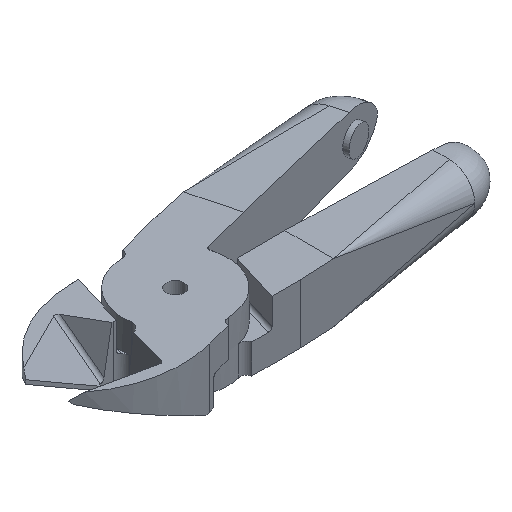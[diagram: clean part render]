
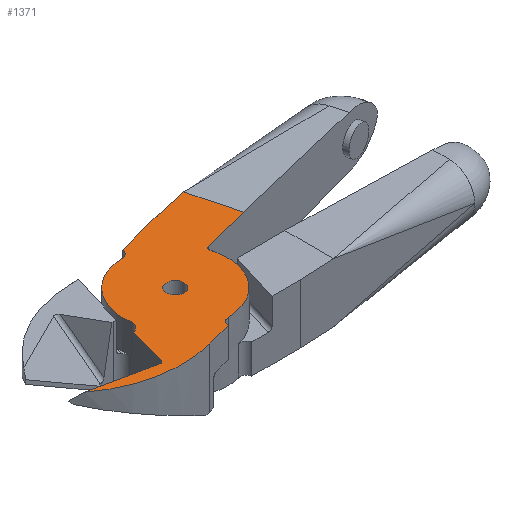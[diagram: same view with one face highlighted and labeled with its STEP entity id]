
A CAD part, isometric view. The second image highlights one B-rep face of the part: STEP entity #1371.
In plain terms, the highlighted planar face has unit normal (0, 0, 1).
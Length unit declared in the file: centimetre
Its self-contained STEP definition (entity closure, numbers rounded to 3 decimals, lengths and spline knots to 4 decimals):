
#14=FACE_BOUND('',#177,.T.);
#33=ELLIPSE('',#1463,0.1269,0.1);
#104=FACE_OUTER_BOUND('',#176,.T.);
#176=EDGE_LOOP('',(#958,#959,#960,#961,#962,#963,#964,#965,#966,#967,#968,
#969,#970,#971,#972,#973,#974));
#177=EDGE_LOOP('',(#975));
#251=LINE('',#1990,#373);
#255=LINE('',#2001,#377);
#260=LINE('',#2011,#382);
#263=LINE('',#2016,#385);
#272=LINE('',#2059,#394);
#276=LINE('',#2066,#398);
#277=LINE('',#2069,#399);
#280=LINE('',#2192,#402);
#281=LINE('',#2193,#403);
#373=VECTOR('',#1608,0.7606);
#377=VECTOR('',#1618,0.07);
#382=VECTOR('',#1625,1.0011);
#385=VECTOR('',#1630,1.4);
#394=VECTOR('',#1661,1.13);
#398=VECTOR('',#1667,1.8244);
#399=VECTOR('',#1672,0.0403);
#402=VECTOR('',#1687,1.42);
#403=VECTOR('',#1688,1.4031);
#484=CIRCLE('',#1438,0.2);
#485=CIRCLE('',#1440,0.25);
#487=CIRCLE('',#1444,0.2);
#490=CIRCLE('',#1456,3.5);
#491=CIRCLE('',#1465,1.5);
#492=CIRCLE('',#1466,1.5);
#493=CIRCLE('',#1467,0.08);
#494=CIRCLE('',#1468,0.255);
#538=VERTEX_POINT('',#1973);
#539=VERTEX_POINT('',#1974);
#540=VERTEX_POINT('',#1979);
#541=VERTEX_POINT('',#1980);
#543=VERTEX_POINT('',#1987);
#544=VERTEX_POINT('',#1989);
#546=VERTEX_POINT('',#1995);
#547=VERTEX_POINT('',#1999);
#548=VERTEX_POINT('',#2000);
#551=VERTEX_POINT('',#2008);
#552=VERTEX_POINT('',#2010);
#561=VERTEX_POINT('',#2051);
#563=VERTEX_POINT('',#2056);
#564=VERTEX_POINT('',#2058);
#566=VERTEX_POINT('',#2063);
#571=VERTEX_POINT('',#2189);
#572=VERTEX_POINT('',#2191);
#573=VERTEX_POINT('',#2194);
#672=EDGE_CURVE('',#538,#539,#484,.T.);
#675=EDGE_CURVE('',#540,#541,#485,.T.);
#680=EDGE_CURVE('',#544,#543,#251,.T.);
#683=EDGE_CURVE('',#543,#546,#487,.T.);
#685=EDGE_CURVE('',#547,#548,#255,.T.);
#690=EDGE_CURVE('',#552,#551,#260,.T.);
#693=EDGE_CURVE('',#551,#538,#263,.T.);
#706=EDGE_CURVE('',#561,#544,#490,.T.);
#709=EDGE_CURVE('',#563,#564,#272,.T.);
#713=EDGE_CURVE('',#566,#561,#276,.T.);
#715=EDGE_CURVE('',#564,#541,#277,.T.);
#722=EDGE_CURVE('',#563,#566,#33,.T.);
#723=EDGE_CURVE('',#539,#540,#491,.T.);
#724=EDGE_CURVE('',#546,#547,#492,.T.);
#725=EDGE_CURVE('',#548,#571,#493,.T.);
#726=EDGE_CURVE('',#571,#572,#280,.T.);
#727=EDGE_CURVE('',#572,#552,#281,.T.);
#728=EDGE_CURVE('',#573,#573,#494,.T.);
#958=ORIENTED_EDGE('',*,*,#672,.T.);
#959=ORIENTED_EDGE('',*,*,#723,.T.);
#960=ORIENTED_EDGE('',*,*,#675,.T.);
#961=ORIENTED_EDGE('',*,*,#715,.F.);
#962=ORIENTED_EDGE('',*,*,#709,.F.);
#963=ORIENTED_EDGE('',*,*,#722,.T.);
#964=ORIENTED_EDGE('',*,*,#713,.T.);
#965=ORIENTED_EDGE('',*,*,#706,.T.);
#966=ORIENTED_EDGE('',*,*,#680,.T.);
#967=ORIENTED_EDGE('',*,*,#683,.T.);
#968=ORIENTED_EDGE('',*,*,#724,.T.);
#969=ORIENTED_EDGE('',*,*,#685,.T.);
#970=ORIENTED_EDGE('',*,*,#725,.T.);
#971=ORIENTED_EDGE('',*,*,#726,.T.);
#972=ORIENTED_EDGE('',*,*,#727,.T.);
#973=ORIENTED_EDGE('',*,*,#690,.T.);
#974=ORIENTED_EDGE('',*,*,#693,.T.);
#975=ORIENTED_EDGE('',*,*,#728,.F.);
#1245=PLANE('',#1464);
#1371=ADVANCED_FACE('',(#104,#14),#1245,.T.);
#1438=AXIS2_PLACEMENT_3D('',#1975,#1593,#1594);
#1440=AXIS2_PLACEMENT_3D('',#1981,#1599,#1600);
#1444=AXIS2_PLACEMENT_3D('',#1996,#1613,#1614);
#1456=AXIS2_PLACEMENT_3D('',#2052,#1654,#1655);
#1463=AXIS2_PLACEMENT_3D('',#2185,#1677,#1678);
#1464=AXIS2_PLACEMENT_3D('',#2186,#1679,#1680);
#1465=AXIS2_PLACEMENT_3D('',#2187,#1681,#1682);
#1466=AXIS2_PLACEMENT_3D('',#2188,#1683,#1684);
#1467=AXIS2_PLACEMENT_3D('',#2190,#1685,#1686);
#1468=AXIS2_PLACEMENT_3D('',#2195,#1689,#1690);
#1593=DIRECTION('center_axis',(0.,0.,
-1.));
#1594=DIRECTION('ref_axis',(0.015,-1.,0.));
#1599=DIRECTION('center_axis',(0.,0.,
-1.));
#1600=DIRECTION('ref_axis',(0.253,-0.967,0.));
#1608=DIRECTION('',(0.967,0.253,0.));
#1613=DIRECTION('center_axis',(0.,0.,
-1.));
#1614=DIRECTION('ref_axis',(-0.015,1.,0.));
#1618=DIRECTION('',(-0.253,0.967,0.));
#1625=DIRECTION('',(-0.978,-0.208,0.));
#1630=DIRECTION('',(-0.967,-0.253,0.));
#1654=DIRECTION('center_axis',(0.,0.,
1.));
#1655=DIRECTION('ref_axis',(0.253,-0.967,0.));
#1661=DIRECTION('',(0.264,0.964,0.));
#1667=DIRECTION('',(-0.979,0.206,0.));
#1672=DIRECTION('',(0.967,0.253,0.));
#1677=DIRECTION('center_axis',(0.,0.,
-1.));
#1678=DIRECTION('ref_axis',(0.071,0.997,0.));
#1679=DIRECTION('center_axis',(0.,0.,
1.));
#1680=DIRECTION('ref_axis',(0.967,0.253,0.));
#1681=DIRECTION('center_axis',(0.,0.,
1.));
#1682=DIRECTION('ref_axis',(-0.99,-0.141,0.));
#1683=DIRECTION('center_axis',(0.,0.,
1.));
#1684=DIRECTION('ref_axis',(0.967,0.253,0.));
#1685=DIRECTION('center_axis',(0.,0.,
-1.));
#1686=DIRECTION('ref_axis',(-0.253,0.967,0.));
#1687=DIRECTION('',(0.967,0.253,0.));
#1688=DIRECTION('',(-0.253,0.967,0.));
#1689=DIRECTION('center_axis',(0.,0.,
1.));
#1690=DIRECTION('ref_axis',(0.944,-0.331,0.));
#1973=CARTESIAN_POINT('',(0.1749,1.6998,0.));
#1974=CARTESIAN_POINT('',(-0.0221,1.4998,0.));
#1975=CARTESIAN_POINT('Origin',(-0.0251,1.6998,0.));
#1979=CARTESIAN_POINT('',(-1.485,-0.2118,0.));
#1980=CARTESIAN_POINT('',(-1.6691,-0.4889,0.));
#1981=CARTESIAN_POINT('Origin',(-1.7325,-0.2471,0.));
#1987=CARTESIAN_POINT('',(-0.1749,-1.6998,0.));
#1989=CARTESIAN_POINT('',(-0.9107,-1.8926,0.));
#1990=CARTESIAN_POINT('',(-0.9107,-1.8926,0.));
#1995=CARTESIAN_POINT('',(0.0221,-1.4998,0.));
#1996=CARTESIAN_POINT('Origin',(0.0251,-1.6998,0.));
#1999=CARTESIAN_POINT('',(1.451,0.3801,0.));
#2000=CARTESIAN_POINT('',(1.4333,0.4478,0.));
#2001=CARTESIAN_POINT('',(1.451,0.3801,0.));
#2008=CARTESIAN_POINT('',(1.5292,2.0546,0.));
#2010=CARTESIAN_POINT('',(2.5085,2.2627,0.));
#2011=CARTESIAN_POINT('',(2.5085,2.2627,0.));
#2016=CARTESIAN_POINT('',(1.5292,2.0546,0.));
#2051=CARTESIAN_POINT('',(-3.9061,-1.3005,0.));
#2052=CARTESIAN_POINT('Origin',(-1.7977,1.4932,0.));
#2056=CARTESIAN_POINT('',(-2.0067,-1.589,0.));
#2058=CARTESIAN_POINT('',(-1.7081,-0.4992,0.));
#2059=CARTESIAN_POINT('',(-2.0067,-1.589,0.));
#2063=CARTESIAN_POINT('',(-2.1209,-1.6762,0.));
#2066=CARTESIAN_POINT('',(-2.1209,-1.6762,0.));
#2069=CARTESIAN_POINT('',(-1.7081,-0.4992,0.));
#2185=CARTESIAN_POINT('Origin',(-2.1012,-1.5511,0.));
#2186=CARTESIAN_POINT('Origin',(-0.0509,-1.9922,0.));
#2187=CARTESIAN_POINT('Origin',(0.,0.,
0.));
#2188=CARTESIAN_POINT('Origin',(0.,0.,
0.));
#2189=CARTESIAN_POINT('',(1.4904,0.5455,0.));
#2190=CARTESIAN_POINT('Origin',(1.5107,0.4681,0.));
#2191=CARTESIAN_POINT('',(2.8641,0.9054,0.));
#2192=CARTESIAN_POINT('',(1.4904,0.5455,0.));
#2193=CARTESIAN_POINT('',(2.8641,0.9054,0.));
#2194=CARTESIAN_POINT('',(0.2467,0.0646,0.));
#2195=CARTESIAN_POINT('Origin',(0.,0.,
0.));
